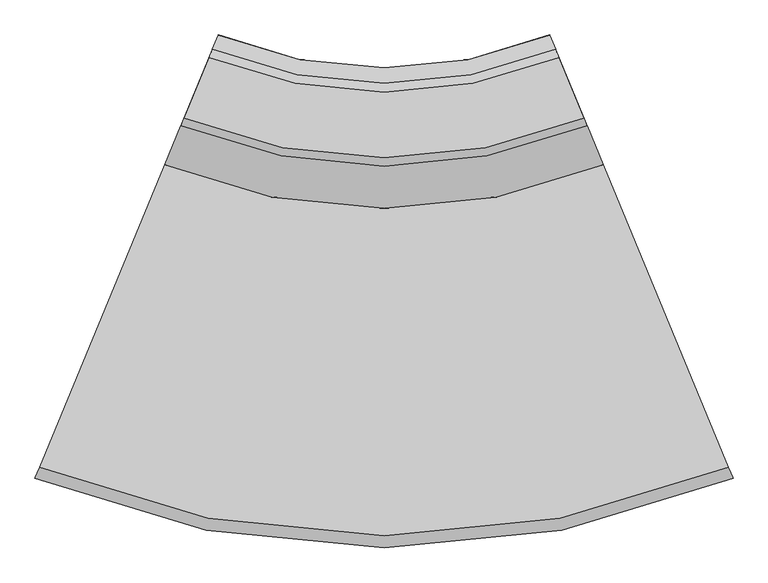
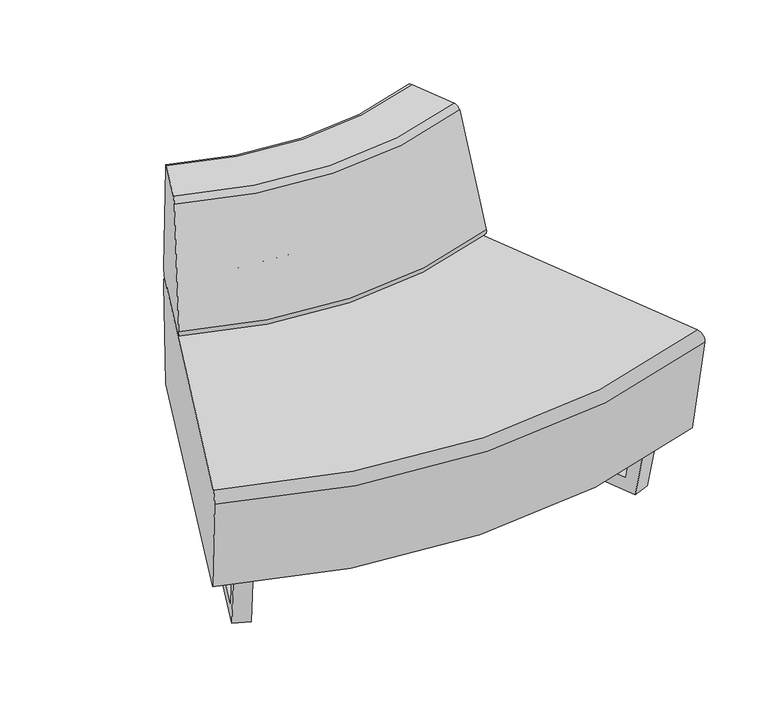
"""IFC4 building model written with IfcOpenShell, lengths in millimetres: furniture geometry, Furniture-Sofa-LyndonDesign-Us_US_9 : Furniture-Sofa-LyndonDesign-Us_US_9."""

from ifc_helpers import new_model, si_unit, point, frame, origin, place, context, project, spatial, polyline, circle_curve, ellipse_curve, trimmed, outline, extrude, source, transform, mapped, element, save
from ifc_brep_helpers import plane_surface, revolved_surface, advanced_brep


def furniture_442ccac9(model_context):
    return source(origin(), model_context, "Body", "SolidModel", [
        advanced_brep(
        [(-280.758543, 72.3858324, 400.0), (-357.1851542, -112.6990798, 400.0), (-363.293947, -127.4929503, 418.8659125), (-336.7318038, -63.1665085, 688.2685098), (-331.4641865, -50.4097414, 698.9837746), (-290.0348224, 49.9211526, 699.1667853), (-284.4831153, 63.3659096, 685.8398745), (-274.5678611, 87.3780165, 416.4948981), (280.758543, 72.3858324, 400.0), (274.5678611, 87.3780165, 416.4948981), (284.4831153, 63.3659096, 685.8398745), (290.0348224, 49.9211526, 699.1667853), (331.4641865, -50.4097414, 698.9837746), (336.7318038, -63.1665085, 688.2685098), (363.293947, -127.4929503, 418.8659125), (357.1851542, -112.6990798, 400.0)],
        [
            (0, 1),
            (1, 2, circle_curve(frame((-357.1851542, -112.6990798, 416.2223431), z_axis=(-0.924299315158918, 0.38166841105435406, 0.0), x_axis=(0.38166841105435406, 0.924299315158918, 0.0)), 16.2223431)),
            (2, 3, circle_curve(frame((225.3694355, 1298.0930967, 164.1228604), z_axis=(-0.924299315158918, 0.38166841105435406, 0.0), x_axis=(0.38166841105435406, 0.924299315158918, 0.0)), 1563.2383624)),
            (3, 4, circle_curve(frame((-330.8986568, -49.0401789, 682.829243), z_axis=(-0.924299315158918, 0.38166841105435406, 0.0), x_axis=(0.38166841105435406, 0.924299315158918, 0.0)), 16.2223431)),
            (4, 5, circle_curve(frame((-310.3615485, 0.6952316, 96.1803965), z_axis=(-0.924299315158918, 0.38166841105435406, 0.0), x_axis=(0.38166841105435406, 0.924299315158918, 0.0)), 605.3337527)),
            (5, 6, circle_curve(frame((-290.5795584, 48.6019468, 683.0073493), z_axis=(-0.924299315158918, 0.38166841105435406, 0.0), x_axis=(0.38166841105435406, 0.924299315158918, 0.0)), 16.2223431)),
            (6, 7, circle_curve(frame((-925.9149311, -1490.0112389, 387.8182679), z_axis=(-0.924299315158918, 0.38166841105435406, 0.0), x_axis=(0.38166841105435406, 0.924299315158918, 0.0)), 1706.8193278)),
            (7, 0, circle_curve(frame((-280.758543, 72.3858324, 416.2223431), z_axis=(-0.924299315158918, 0.38166841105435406, 0.0), x_axis=(0.38166841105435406, 0.924299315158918, 0.0)), 16.2223431)),
            (8, 9, circle_curve(frame((280.758543, 72.3858324, 416.2223431), z_axis=(0.9242993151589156, 0.3816684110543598, 0.0), x_axis=(-0.3816684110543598, 0.9242993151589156, 0.0)), 16.2223431)),
            (9, 10, circle_curve(frame((925.9149311, -1490.0112389, 387.8182679), z_axis=(0.9242993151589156, 0.3816684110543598, 0.0), x_axis=(-0.3816684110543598, 0.9242993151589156, 0.0)), 1706.8193278)),
            (10, 11, circle_curve(frame((290.5795584, 48.6019468, 683.0073493), z_axis=(0.9242993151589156, 0.3816684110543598, 0.0), x_axis=(-0.3816684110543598, 0.9242993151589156, 0.0)), 16.2223431)),
            (11, 12, circle_curve(frame((310.3615485, 0.6952316, 96.1803965), z_axis=(0.9242993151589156, 0.3816684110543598, 0.0), x_axis=(-0.3816684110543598, 0.9242993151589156, 0.0)), 605.3337527)),
            (12, 13, circle_curve(frame((330.8986568, -49.0401789, 682.829243), z_axis=(0.9242993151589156, 0.3816684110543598, 0.0), x_axis=(-0.3816684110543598, 0.9242993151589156, 0.0)), 16.2223431)),
            (13, 14, circle_curve(frame((-225.3694355, 1298.0930967, 164.1228604), z_axis=(0.9242993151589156, 0.3816684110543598, 0.0), x_axis=(-0.3816684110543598, 0.9242993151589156, 0.0)), 1563.2383624)),
            (14, 15, circle_curve(frame((357.1851542, -112.6990798, 416.2223431), z_axis=(0.9242993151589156, 0.3816684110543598, 0.0), x_axis=(-0.3816684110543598, 0.9242993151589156, 0.0)), 16.2223431)),
            (15, 8),
            (15, 1, circle_curve(frame((0.0, 752.3083031, 400.0), z_axis=(0.0, 0.0, -1.0), x_axis=(-0.38166841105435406, -0.924299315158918, 0.0)), 935.8520219)),
            (0, 8, circle_curve(frame((0.0, 752.3083031, 400.0), z_axis=(0.0, 0.0, 1.0), x_axis=(-0.38166841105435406, -0.924299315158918, 0.0)), 735.6085411)),
            (14, 2, circle_curve(frame((0.0, 752.3083031, 418.8659125), z_axis=(0.0, 0.0, -1.0), x_axis=(-0.38166841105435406, -0.924299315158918, 0.0)), 951.8575195)),
            (13, 3, circle_curve(frame((0.0, 752.3083031, 688.2685098), z_axis=(0.0, 0.0, -1.0), x_axis=(-0.38166841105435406, -0.924299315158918, 0.0)), 882.2627025)),
            (12, 4, circle_curve(frame((0.0, 752.3083031, 698.9837746), z_axis=(0.0, 0.0, -1.0), x_axis=(-0.38166841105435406, -0.924299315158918, 0.0)), 868.4611483)),
            (11, 5, circle_curve(frame((0.0, 752.3083031, 699.1667853), z_axis=(0.0, 0.0, -1.0), x_axis=(-0.38166841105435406, -0.924299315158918, 0.0)), 759.913092)),
            (10, 6, circle_curve(frame((0.0, 752.3083031, 685.8398745), z_axis=(0.0, 0.0, -1.0), x_axis=(-0.38166841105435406, -0.924299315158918, 0.0)), 745.3672011)),
            (9, 7, circle_curve(frame((0.0, 752.3083031, 416.4948981), z_axis=(0.0, 0.0, -1.0), x_axis=(-0.38166841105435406, -0.924299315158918, 0.0)), 719.3884878)),
        ],
        [
            plane_surface(frame((-274.492502, 87.5605161, 400.0), z_axis=(-0.924299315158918, 0.38166841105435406, 0.0), x_axis=(0.0, 0.0, 1.0))),
            plane_surface(frame((274.492502, 87.5605161, 400.0), z_axis=(0.9242993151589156, 0.38166841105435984, 0.0), x_axis=(0.0, 0.0, 1.0))),
            plane_surface(frame((0.0, 752.3083031, 400.0), z_axis=(0.0, 0.0, -1.0), x_axis=(-0.38166841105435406, -0.924299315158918, 0.0))),
            revolved_surface(trimmed(ellipse_curve(frame((-357.1851542, -112.6990798, 416.2223431), z_axis=(-0.924299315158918, 0.38166841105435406, 0.0), x_axis=(0.38166841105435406, 0.924299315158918, 0.0)), 16.2223431, 16.2223431), [point((-357.1851542, -112.6990798, 400.0))], [point((-363.293947, -127.4929503, 418.8659125))], True, "CARTESIAN"), (0.0, 752.3083031, 400.0), (0.0, 0.0, 1.0)),
            revolved_surface(trimmed(ellipse_curve(frame((225.3694355, 1298.0930967, 164.1228604), z_axis=(-0.924299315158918, 0.38166841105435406, 0.0), x_axis=(0.38166841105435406, 0.924299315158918, 0.0)), 1563.2383624, 1563.2383624), [point((-363.293947, -127.4929503, 418.8659125))], [point((-336.7318038, -63.1665085, 688.2685098))], True, "CARTESIAN"), (0.0, 752.3083031, 400.0), (0.0, 0.0, 1.0)),
            revolved_surface(trimmed(ellipse_curve(frame((-330.8986568, -49.0401789, 682.829243), z_axis=(-0.924299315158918, 0.38166841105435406, 0.0), x_axis=(0.38166841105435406, 0.924299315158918, 0.0)), 16.2223431, 16.2223431), [point((-336.7318038, -63.1665085, 688.2685098))], [point((-331.4641865, -50.4097414, 698.9837746))], True, "CARTESIAN"), (0.0, 752.3083031, 400.0), (0.0, 0.0, 1.0)),
            revolved_surface(trimmed(ellipse_curve(frame((-310.3615485, 0.6952316, 96.1803965), z_axis=(-0.924299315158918, 0.38166841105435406, 0.0), x_axis=(0.38166841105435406, 0.924299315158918, 0.0)), 605.3337527, 605.3337527), [point((-331.4641865, -50.4097414, 698.9837746))], [point((-290.0348224, 49.9211526, 699.1667853))], True, "CARTESIAN"), (0.0, 752.3083031, 400.0), (0.0, 0.0, 1.0)),
            revolved_surface(trimmed(ellipse_curve(frame((-290.5795584, 48.6019468, 683.0073493), z_axis=(-0.924299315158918, 0.38166841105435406, 0.0), x_axis=(0.38166841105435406, 0.924299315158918, 0.0)), 16.2223431, 16.2223431), [point((-290.0348224, 49.9211526, 699.1667853))], [point((-284.4831153, 63.3659096, 685.8398745))], True, "CARTESIAN"), (0.0, 752.3083031, 400.0), (0.0, 0.0, 1.0)),
            revolved_surface(trimmed(ellipse_curve(frame((-925.9149311, -1490.0112389, 387.8182679), z_axis=(-0.924299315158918, 0.38166841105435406, 0.0), x_axis=(0.38166841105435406, 0.924299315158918, 0.0)), 1706.8193278, 1706.8193278), [point((-284.4831153, 63.3659096, 685.8398745))], [point((-274.5678611, 87.3780165, 416.4948981))], True, "CARTESIAN"), (0.0, 752.3083031, 400.0), (0.0, 0.0, 1.0)),
            revolved_surface(trimmed(ellipse_curve(frame((-280.758543, 72.3858324, 416.2223431), z_axis=(-0.924299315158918, 0.38166841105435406, 0.0), x_axis=(0.38166841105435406, 0.924299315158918, 0.0)), 16.2223431, 16.2223431), [point((-274.5678611, 87.3780165, 416.4948981))], [point((-280.758543, 72.3858324, 400.0))], True, "CARTESIAN"), (0.0, 752.3083031, 400.0), (0.0, 0.0, 1.0)),
        ],
        [
            (0, [[1, 2, 3, 4, 5, 6, 7, 8]]),
            (1, [[9, 10, 11, 12, 13, 14, 15, 16]]),
            (2, [[17, -1, 18, -16]]),
            (3, [[19, -2, -17, -15]]),
            (4, [[20, -3, -19, -14]]),
            (5, [[21, -4, -20, -13]]),
            (6, [[22, -5, -21, -12]]),
            (7, [[23, -6, -22, -11]]),
            (8, [[24, -7, -23, -10]]),
            (9, [[-18, -8, -24, -9]]),
        ],
    ),
        advanced_brep(
        [(-571.3376862, -629.0871535, 400.0), (-282.1461707, 69.0829254, 400.0), (-274.5350749, 87.4577362, 377.8934504), (-287.1059633, 57.1089268, 150.0008635), (-566.3714799, -617.0976709, 150.0008635), (-578.9493307, -647.4632888, 377.9070309), (571.3376862, -629.0871535, 400.0), (578.9493307, -647.4632888, 377.9070309), (566.3714799, -617.0976709, 150.0008635), (287.1059633, 57.1089268, 150.0008635), (274.5350749, 87.4577362, 377.8934504), (282.1461707, 69.0829254, 400.0)],
        [
            (0, 1),
            (1, 2, circle_curve(frame((-282.1461707, 69.0829254, 380.0), z_axis=(-0.9238795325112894, 0.38268343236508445, 0.0), x_axis=(0.38268343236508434, 0.9238795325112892, 0.0)), 20.0)),
            (2, 3, circle_curve(frame((-1438.9244518, -2723.6268894, 700.1655651), z_axis=(-0.9238795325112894, 0.38268343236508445, 0.0), x_axis=(0.38268343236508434, 0.9238795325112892, 0.0)), 3059.7154621)),
            (3, 4),
            (4, 5, circle_curve(frame((562.7846627, 2108.9264025, 691.8489037), z_axis=(-0.9238795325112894, 0.38268343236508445, 0.0), x_axis=(0.38268343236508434, 0.9238795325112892, 0.0)), 2999.9666901)),
            (5, 0, circle_curve(frame((-571.3376862, -629.0871535, 380.0), z_axis=(-0.9238795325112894, 0.38268343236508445, 0.0), x_axis=(0.38268343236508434, 0.9238795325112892, 0.0)), 20.0)),
            (6, 7, circle_curve(frame((571.3376862, -629.0871535, 380.0), z_axis=(0.923879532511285, 0.38268343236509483, 0.0), x_axis=(-0.382683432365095, 0.9238795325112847, 0.0)), 20.0)),
            (7, 8, circle_curve(frame((-562.7846627, 2108.9264025, 691.8489037), z_axis=(0.923879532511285, 0.38268343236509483, 0.0), x_axis=(-0.382683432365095, 0.9238795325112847, 0.0)), 2999.9666901)),
            (8, 9),
            (9, 10, circle_curve(frame((1438.9244518, -2723.6268894, 700.1655651), z_axis=(0.923879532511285, 0.38268343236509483, 0.0), x_axis=(-0.382683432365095, 0.9238795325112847, 0.0)), 3059.7154621)),
            (10, 11, circle_curve(frame((282.1461707, 69.0829254, 380.0), z_axis=(0.923879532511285, 0.38268343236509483, 0.0), x_axis=(-0.382683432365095, 0.9238795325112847, 0.0)), 20.0)),
            (11, 6),
            (11, 1, circle_curve(frame((0.0, 750.2440372, 400.0), z_axis=(0.0, 0.0, -1.0), x_axis=(-0.38268343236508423, -0.9238795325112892, 0.0)), 737.2834746)),
            (0, 6, circle_curve(frame((0.0, 750.2440372, 400.0), z_axis=(0.0, 0.0, 1.0), x_axis=(-0.38268343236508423, -0.9238795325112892, 0.0)), 1492.9773225)),
            (10, 2, circle_curve(frame((0.0, 750.2440372, 377.8934504), z_axis=(0.0, 0.0, -1.0), x_axis=(-0.38268343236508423, -0.9238795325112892, 0.0)), 717.3947227)),
            (9, 3, circle_curve(frame((0.0, 750.2440372, 150.0008635), z_axis=(0.0, 0.0, -1.0), x_axis=(-0.38268343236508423, -0.9238795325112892, 0.0)), 750.2440372)),
            (8, 4, circle_curve(frame((0.0, 750.2440372, 150.0008635), z_axis=(0.0, 0.0, -1.0), x_axis=(-0.38268343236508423, -0.9238795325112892, 0.0)), 1480.0)),
            (7, 5, circle_curve(frame((0.0, 750.2440372, 377.9070309), z_axis=(0.0, 0.0, -1.0), x_axis=(-0.38268343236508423, -0.9238795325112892, 0.0)), 1512.867508)),
        ],
        [
            plane_surface(frame((-566.3714799, -617.0976709, 150.0008635), z_axis=(-0.9238795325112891, 0.38268343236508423, 0.0), x_axis=(0.0, 0.0, 1.0))),
            plane_surface(frame((566.3714799, -617.0976709, 150.0008635), z_axis=(0.9238795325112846, 0.38268343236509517, 0.0), x_axis=(0.0, 0.0, 1.0))),
            plane_surface(frame((0.0, 750.2440372, 400.0), z_axis=(0.0, 0.0, 1.0000000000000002), x_axis=(-0.38268343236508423, -0.9238795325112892, 0.0))),
            revolved_surface(trimmed(ellipse_curve(frame((-282.1461707, 69.0829254, 380.0), z_axis=(-0.9238795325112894, 0.38268343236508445, 0.0), x_axis=(0.38268343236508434, 0.9238795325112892, 0.0)), 20.0, 20.0), [point((-282.1461707, 69.0829254, 400.0))], [point((-274.5350749, 87.4577362, 377.8934504))], True, "CARTESIAN"), (0.0, 750.2440372, 150.0008635), (0.0, 0.0, 1.0000000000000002)),
            revolved_surface(trimmed(ellipse_curve(frame((-1438.9244518, -2723.6268894, 700.1655651), z_axis=(-0.9238795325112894, 0.38268343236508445, 0.0), x_axis=(0.38268343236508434, 0.9238795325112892, 0.0)), 3059.7154621, 3059.7154621), [point((-274.5350749, 87.4577362, 377.8934504))], [point((-287.1059633, 57.1089268, 150.0008635))], True, "CARTESIAN"), (0.0, 750.2440372, 150.0008635), (0.0, 0.0, 1.0000000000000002)),
            plane_surface(frame((0.0, 750.2440372, 150.0008635), z_axis=(0.0, 0.0, -1.0000000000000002), x_axis=(-0.38268343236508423, -0.9238795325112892, 0.0))),
            revolved_surface(trimmed(ellipse_curve(frame((562.7846627, 2108.9264025, 691.8489037), z_axis=(-0.9238795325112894, 0.38268343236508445, 0.0), x_axis=(0.38268343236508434, 0.9238795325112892, 0.0)), 2999.9666901, 2999.9666901), [point((-566.3714799, -617.0976709, 150.0008635))], [point((-578.9493307, -647.4632888, 377.9070309))], True, "CARTESIAN"), (0.0, 750.2440372, 150.0008635), (0.0, 0.0, 1.0000000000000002)),
            revolved_surface(trimmed(ellipse_curve(frame((-571.3376862, -629.0871535, 380.0), z_axis=(-0.9238795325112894, 0.38268343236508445, 0.0), x_axis=(0.38268343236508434, 0.9238795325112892, 0.0)), 20.0, 20.0), [point((-578.9493307, -647.4632888, 377.9070309))], [point((-571.3376862, -629.0871535, 400.0))], True, "CARTESIAN"), (0.0, 750.2440372, 150.0008635), (0.0, 0.0, 1.0000000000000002)),
        ],
        [
            (0, [[1, 2, 3, 4, 5, 6]]),
            (1, [[7, 8, 9, 10, 11, 12]]),
            (2, [[13, -1, 14, -12]]),
            (3, [[15, -2, -13, -11]]),
            (4, [[16, -3, -15, -10]]),
            (5, [[17, -4, -16, -9]]),
            (6, [[18, -5, -17, -8]]),
            (7, [[-14, -6, -18, -7]]),
        ],
    ),
        extrude(outline(polyline([(144.0066093, 0.0), (257.350926, -589.2004845), (115.5018078, -645.8726429), (-8.7445146, 0.0), (144.0066093, 0.0)]), holes=[polyline([(220.9387595, -569.2750721), (117.5831293, -31.9990166), (23.8893051, -32.027319), (133.9240701, -604.0236811), (220.9387595, -569.2750721)])]), frame((213.5177351, -0.4147084, 141.4137925), z_axis=(0.9238795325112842, 0.38268343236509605, 0.0), x_axis=(0.07229123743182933, -0.17452648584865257, -0.981995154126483)), (0.0, 0.0, 1.0), 40.0),
        extrude(outline(polyline([(789.9948218, 0.0), (818.850442, -150.0008635), (161.1357474, -150.0008635), (189.9913676, 0.0), (789.9948218, 0.0)]), holes=[polyline([(216.4365067, -31.992539), (198.7511472, -124.0047668), (781.2350421, -124.0047668), (763.5634993, -31.992539), (216.4365067, -31.992539)])]), frame((-526.2460811, -755.4077225, 0.0), z_axis=(-0.9238795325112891, 0.3826834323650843, 0.0), x_axis=(0.3826834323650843, 0.9238795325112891, 0.0)), (0.0, 0.0, 1.0), 40.0),
    ])


if __name__ == "__main__":
    model = new_model("IFC4")
    model_context = context("Model", 3, world=origin())
    ifc_project = project(units=[si_unit("LENGTHUNIT", "METRE", prefix="MILLI")], contexts=[model_context])
    site = spatial("IfcSite", under=ifc_project)
    building = spatial("IfcBuilding", under=site)
    placement = place(None, origin())
    furniture_shape = furniture_442ccac9(model_context)
    element("IfcFurniture", 1, ObjectType="Furniture-Sofa-LyndonDesign-Us_US_9 : Furniture-Sofa-LyndonDesign-Us_US_9", at=placement, inside=building, context=model_context, shape_type="MappedRepresentation", body=[
        mapped(furniture_shape, transform((0.0, 0.0, 0.0), x_axis=(1.0, 0.0, 0.0), y_axis=(0.0, 1.0, 0.0), z_axis=(0.0, 0.0, 1.0))),
    ])
    save(model, "model.ifc")
